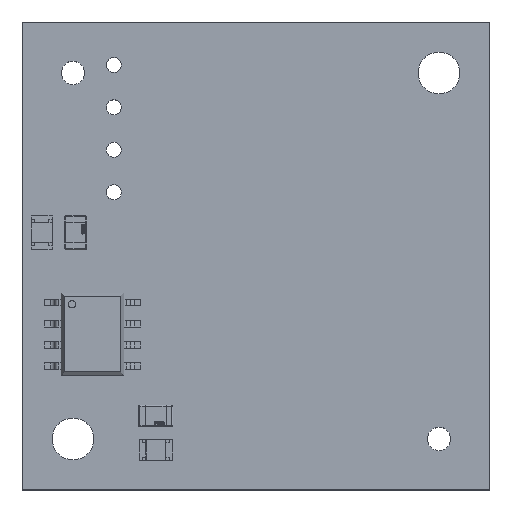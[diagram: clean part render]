
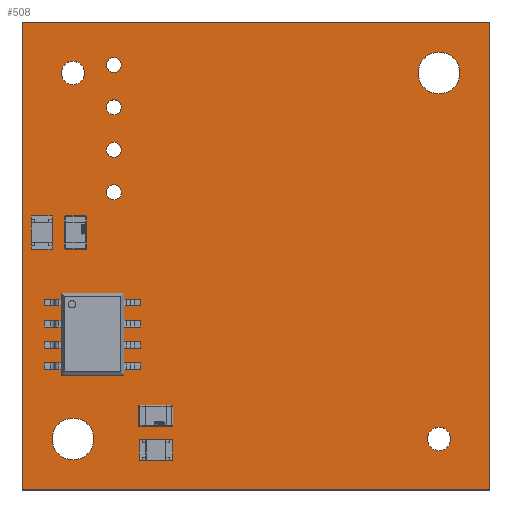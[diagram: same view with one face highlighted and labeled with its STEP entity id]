
A CAD part, top view. The second image highlights one B-rep face of the part: STEP entity #508.
In plain terms, the highlighted planar face has unit normal (0, 0, 1).
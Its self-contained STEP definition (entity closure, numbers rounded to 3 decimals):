
#91 = VERTEX_POINT('',#92);
#92 = CARTESIAN_POINT('',(-11.054,-1.478,0.));
#98 = EDGE_CURVE('',#91,#99,#101,.T.);
#99 = VERTEX_POINT('',#100);
#100 = CARTESIAN_POINT('',(16.946,-1.478,0.));
#101 = LINE('',#102,#103);
#102 = CARTESIAN_POINT('',(-11.054,-1.478,0.));
#103 = VECTOR('',#104,1.);
#104 = DIRECTION('',(1.,0.,0.));
#129 = EDGE_CURVE('',#99,#130,#132,.T.);
#130 = VERTEX_POINT('',#131);
#131 = CARTESIAN_POINT('',(16.946,26.522,0.));
#132 = LINE('',#133,#134);
#133 = CARTESIAN_POINT('',(16.946,-1.478,0.));
#134 = VECTOR('',#135,1.);
#135 = DIRECTION('',(0.,1.,0.));
#160 = EDGE_CURVE('',#130,#161,#163,.T.);
#161 = VERTEX_POINT('',#162);
#162 = CARTESIAN_POINT('',(-11.054,26.522,0.));
#163 = LINE('',#164,#165);
#164 = CARTESIAN_POINT('',(16.946,26.522,0.));
#165 = VECTOR('',#166,1.);
#166 = DIRECTION('',(-1.,0.,0.));
#191 = EDGE_CURVE('',#161,#91,#192,.T.);
#192 = LINE('',#193,#194);
#193 = CARTESIAN_POINT('',(-11.054,26.522,0.));
#194 = VECTOR('',#195,1.);
#195 = DIRECTION('',(0.,-1.,0.));
#215 = VERTEX_POINT('',#216);
#216 = CARTESIAN_POINT('',(-6.754,1.572,0.));
#222 = EDGE_CURVE('',#215,#215,#223,.T.);
#223 = CIRCLE('',#224,1.25);
#224 = AXIS2_PLACEMENT_3D('',#225,#226,#227);
#225 = CARTESIAN_POINT('',(-8.004,1.572,0.));
#226 = DIRECTION('',(0.,0.,1.));
#227 = DIRECTION('',(1.,0.,0.));
#248 = VERTEX_POINT('',#249);
#249 = CARTESIAN_POINT('',(-5.113,16.332,0.));
#255 = EDGE_CURVE('',#248,#248,#256,.T.);
#256 = CIRCLE('',#257,0.45);
#257 = AXIS2_PLACEMENT_3D('',#258,#259,#260);
#258 = CARTESIAN_POINT('',(-5.563,16.332,0.));
#259 = DIRECTION('',(0.,0.,1.));
#260 = DIRECTION('',(1.,0.,0.));
#281 = VERTEX_POINT('',#282);
#282 = CARTESIAN_POINT('',(-7.304,23.472,0.));
#288 = EDGE_CURVE('',#281,#281,#289,.T.);
#289 = CIRCLE('',#290,0.7);
#290 = AXIS2_PLACEMENT_3D('',#291,#292,#293);
#291 = CARTESIAN_POINT('',(-8.004,23.472,0.));
#292 = DIRECTION('',(0.,0.,1.));
#293 = DIRECTION('',(1.,0.,0.));
#314 = VERTEX_POINT('',#315);
#315 = CARTESIAN_POINT('',(-5.113,18.872,0.));
#321 = EDGE_CURVE('',#314,#314,#322,.T.);
#322 = CIRCLE('',#323,0.45);
#323 = AXIS2_PLACEMENT_3D('',#324,#325,#326);
#324 = CARTESIAN_POINT('',(-5.563,18.872,0.));
#325 = DIRECTION('',(0.,0.,1.));
#326 = DIRECTION('',(1.,0.,0.));
#347 = VERTEX_POINT('',#348);
#348 = CARTESIAN_POINT('',(-5.113,21.412,0.));
#354 = EDGE_CURVE('',#347,#347,#355,.T.);
#355 = CIRCLE('',#356,0.45);
#356 = AXIS2_PLACEMENT_3D('',#357,#358,#359);
#357 = CARTESIAN_POINT('',(-5.563,21.412,0.));
#358 = DIRECTION('',(0.,0.,1.));
#359 = DIRECTION('',(1.,0.,0.));
#380 = VERTEX_POINT('',#381);
#381 = CARTESIAN_POINT('',(14.596,1.572,0.));
#387 = EDGE_CURVE('',#380,#380,#388,.T.);
#388 = CIRCLE('',#389,0.7);
#389 = AXIS2_PLACEMENT_3D('',#390,#391,#392);
#390 = CARTESIAN_POINT('',(13.896,1.572,0.));
#391 = DIRECTION('',(0.,0.,1.));
#392 = DIRECTION('',(1.,0.,0.));
#413 = VERTEX_POINT('',#414);
#414 = CARTESIAN_POINT('',(-5.113,23.952,0.));
#420 = EDGE_CURVE('',#413,#413,#421,.T.);
#421 = CIRCLE('',#422,0.45);
#422 = AXIS2_PLACEMENT_3D('',#423,#424,#425);
#423 = CARTESIAN_POINT('',(-5.563,23.952,0.));
#424 = DIRECTION('',(0.,0.,1.));
#425 = DIRECTION('',(1.,0.,0.));
#446 = VERTEX_POINT('',#447);
#447 = CARTESIAN_POINT('',(15.146,23.472,0.));
#453 = EDGE_CURVE('',#446,#446,#454,.T.);
#454 = CIRCLE('',#455,1.25);
#455 = AXIS2_PLACEMENT_3D('',#456,#457,#458);
#456 = CARTESIAN_POINT('',(13.896,23.472,0.));
#457 = DIRECTION('',(0.,0.,1.));
#458 = DIRECTION('',(1.,0.,0.));
#508 = ADVANCED_FACE('',(#509,#515,#518,#521,#524,#527,#530,#533,#536),
  #539,.F.);
#509 = FACE_BOUND('',#510,.T.);
#510 = EDGE_LOOP('',(#511,#512,#513,#514));
#511 = ORIENTED_EDGE('',*,*,#98,.T.);
#512 = ORIENTED_EDGE('',*,*,#129,.T.);
#513 = ORIENTED_EDGE('',*,*,#160,.T.);
#514 = ORIENTED_EDGE('',*,*,#191,.T.);
#515 = FACE_BOUND('',#516,.F.);
#516 = EDGE_LOOP('',(#517));
#517 = ORIENTED_EDGE('',*,*,#222,.T.);
#518 = FACE_BOUND('',#519,.F.);
#519 = EDGE_LOOP('',(#520));
#520 = ORIENTED_EDGE('',*,*,#255,.T.);
#521 = FACE_BOUND('',#522,.F.);
#522 = EDGE_LOOP('',(#523));
#523 = ORIENTED_EDGE('',*,*,#288,.T.);
#524 = FACE_BOUND('',#525,.F.);
#525 = EDGE_LOOP('',(#526));
#526 = ORIENTED_EDGE('',*,*,#321,.T.);
#527 = FACE_BOUND('',#528,.F.);
#528 = EDGE_LOOP('',(#529));
#529 = ORIENTED_EDGE('',*,*,#354,.T.);
#530 = FACE_BOUND('',#531,.F.);
#531 = EDGE_LOOP('',(#532));
#532 = ORIENTED_EDGE('',*,*,#387,.T.);
#533 = FACE_BOUND('',#534,.F.);
#534 = EDGE_LOOP('',(#535));
#535 = ORIENTED_EDGE('',*,*,#420,.T.);
#536 = FACE_BOUND('',#537,.F.);
#537 = EDGE_LOOP('',(#538));
#538 = ORIENTED_EDGE('',*,*,#453,.T.);
#539 = PLANE('',#540);
#540 = AXIS2_PLACEMENT_3D('',#541,#542,#543);
#541 = CARTESIAN_POINT('',(-11.054,-1.478,0.));
#542 = DIRECTION('',(0.,0.,-1.));
#543 = DIRECTION('',(-1.,0.,0.));
